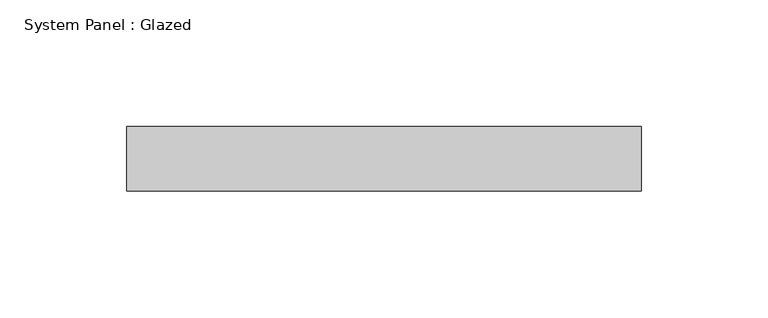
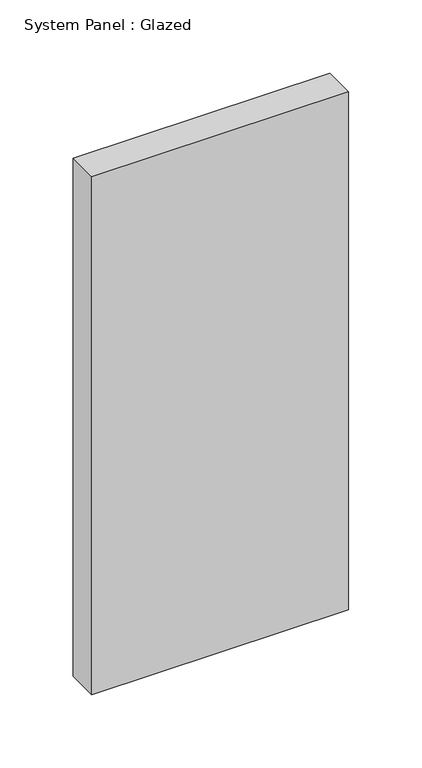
"""IFC4 building model written with IfcOpenShell, lengths in millimetres: plate geometry, System Panel : Glazed."""

from ifc_helpers import new_model, si_unit, origin, origin_with_axes, place, context, project, spatial, polyline, outline, extrude, source, transform, mapped, element, save


def system_panel_glazed_fb44b68d(model_context):
    return source(origin(), model_context, "Body", "SweptSolid", [
        extrude(outline(polyline([(101.347549, -44.45), (-101.347549, -44.45), (-101.347549, -19.05), (101.347549, -19.05), (101.347549, -44.45)])), origin_with_axes(), (0.0, 0.0, 1.0), 431.8),
    ])


if __name__ == "__main__":
    model = new_model("IFC4")
    model_context = context("Model", 3, world=origin())
    ifc_project = project(units=[si_unit("LENGTHUNIT", "METRE", prefix="MILLI")], contexts=[model_context])
    site = spatial("IfcSite", under=ifc_project)
    building = spatial("IfcBuilding", under=site)
    placement = place(None, origin())
    system_panel_glazed_shape = system_panel_glazed_fb44b68d(model_context)
    element("IfcPlate", 1, ObjectType="System Panel : Glazed", at=placement, inside=building, context=model_context, shape_type="MappedRepresentation", body=[
        mapped(system_panel_glazed_shape, transform((0.0, 0.0, 0.0), x_axis=(1.0, 0.0, 0.0), y_axis=(0.0, 1.0, 0.0), z_axis=(0.0, 0.0, 1.0))),
    ])
    save(model, "model.ifc")
